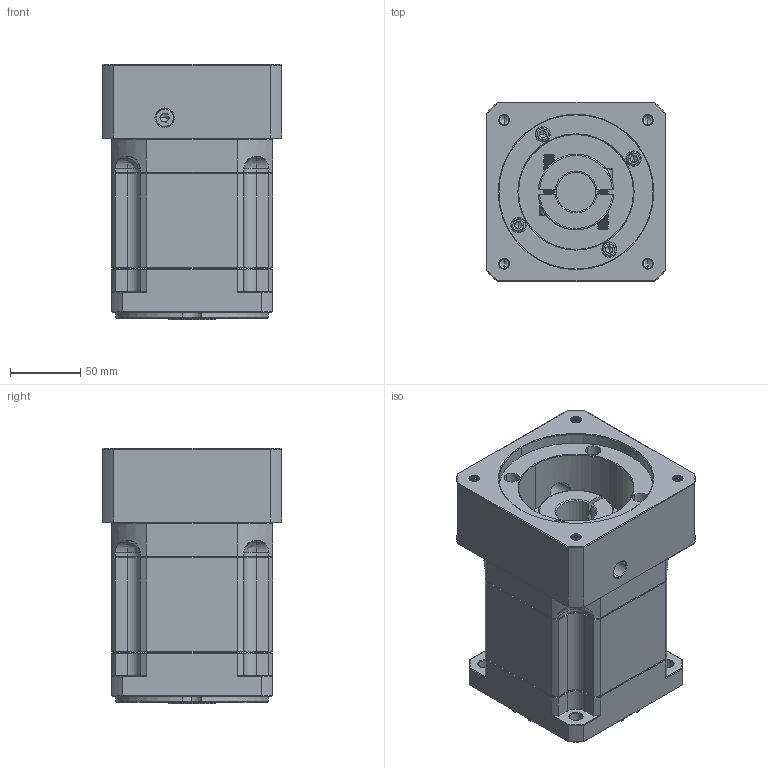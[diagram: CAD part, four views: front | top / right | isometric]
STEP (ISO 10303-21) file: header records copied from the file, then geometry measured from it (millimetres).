
FILE_DESCRIPTION (( 'STEP AP214' ), '1' );
FILE_NAME ('ZB115A-K25-L2-P2-28-110-145-M8.step', '2023-08-26T06:38:27', ( '' ), ( '' ), 'SwSTEP 2.0', 'SolidWorks 2016', '' );
FILE_SCHEMA (( 'AUTOMOTIVE_DESIGN' ));
Length unit declared in the file: millimetre
Products named in the file (1): ZB115A-K25-L2-P2-28-110-145-M8
Bounding box: 128 x 128 x 182 mm (x, y, z)
Volume: 2044203.8 mm3; surface area: 193956.2 mm2
Topology: 6 solids, 6 shells, 2335 faces, 6132 edges, 3896 vertices
Faces by surface type: plane 1136, bspline 414, cylinder 406, cone 359, torus 20
Entity records: 123403 total; most frequent: CARTESIAN_POINT 43513, ORIENTED_EDGE 12200, DIRECTION 9693, EDGE_CURVE 6100, VECTOR 3941, LINE 3941, VERTEX_POINT 3896, AXIS2_PLACEMENT_3D 2876
